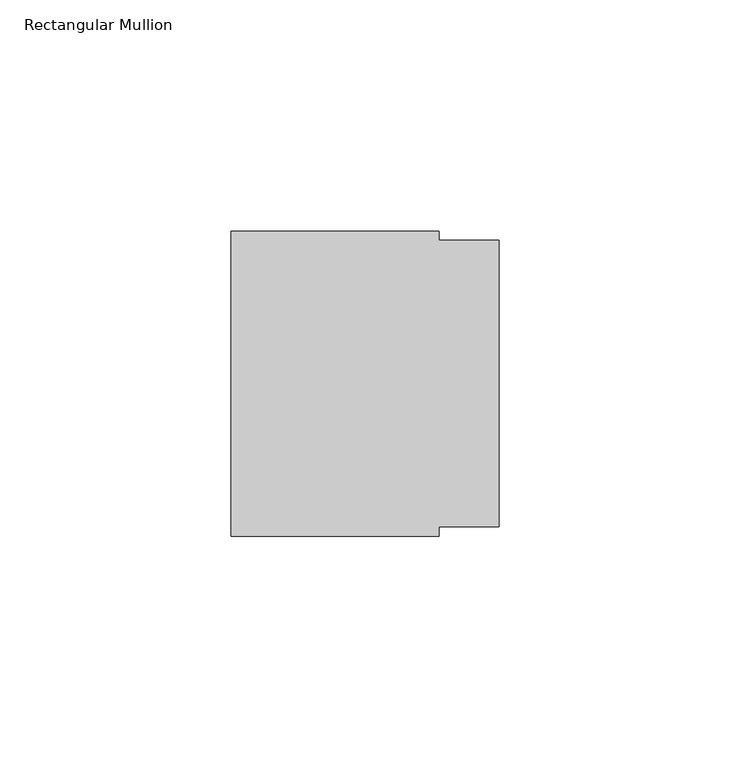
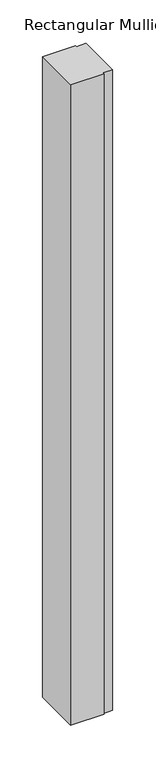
"""IFC4 building model written with IfcOpenShell, lengths in millimetres: member geometry, Rectangular Mullion : FLOOR_TRACK 85-KLS00-P80-RE58XC."""

from ifc_helpers import new_model, si_unit, frame, origin, place, context, project, spatial, polyline, outline, extrude, source, transform, mapped, element, save


def rectangular_mullion_65046eaf(model_context):
    return source(origin(), model_context, "Body", "SweptSolid", [
        extrude(outline(polyline([(-13.0, 33.0), (-13.0, 31.0), (0.0, 31.0), (0.0, -31.0), (-13.0, -31.0), (-13.0, -33.0), (-58.0, -33.0), (-58.0, 33.0), (-13.0, 33.0)])), frame((0.0, 0.0, -917.0), z_axis=(0.0, 0.0, 1.0), x_axis=(1.0, 0.0, 0.0)), (0.0, 0.0, 1.0), 917.0),
    ])


if __name__ == "__main__":
    model = new_model("IFC4")
    model_context = context("Model", 3, world=origin())
    ifc_project = project(units=[si_unit("LENGTHUNIT", "METRE", prefix="MILLI")], contexts=[model_context])
    site = spatial("IfcSite", under=ifc_project)
    building = spatial("IfcBuilding", under=site)
    placement = place(None, origin())
    rectangular_mullion_shape = rectangular_mullion_65046eaf(model_context)
    element("IfcMember", 1, ObjectType="Rectangular Mullion : FLOOR_TRACK 85-KLS00-P80-RE58XC", at=placement, inside=building, context=model_context, shape_type="MappedRepresentation", body=[
        mapped(rectangular_mullion_shape, transform((0.0, 0.0, 0.0), x_axis=(1.0, 0.0, 0.0), y_axis=(0.0, 1.0, 0.0), z_axis=(0.0, 0.0, 1.0))),
    ])
    save(model, "model.ifc")
